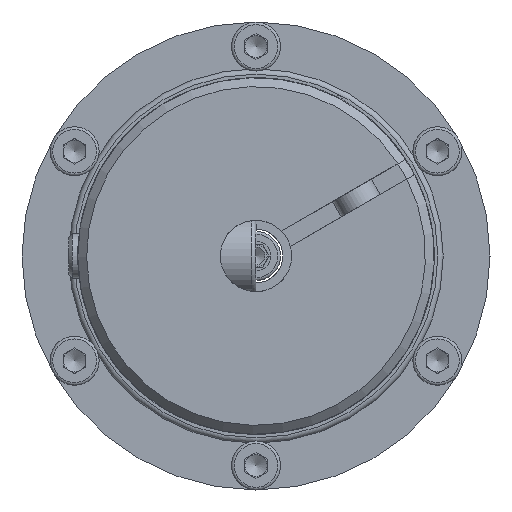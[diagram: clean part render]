
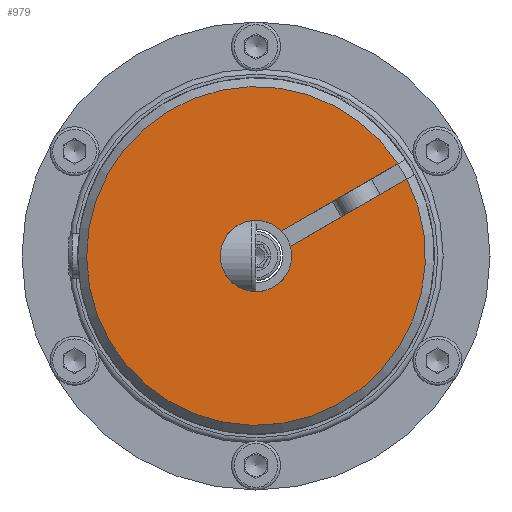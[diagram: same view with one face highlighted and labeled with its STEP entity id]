
A CAD part, left-side view. The second image highlights one B-rep face of the part: STEP entity #979.
In plain terms, the highlighted planar face has unit normal (-1, 0, 0).
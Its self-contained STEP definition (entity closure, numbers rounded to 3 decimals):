
#979 = ADVANCED_FACE( '', ( #1801 ), #1802, .F. );
#1801 = FACE_OUTER_BOUND( '', #3023, .T. );
#1802 = PLANE( '', #3024 );
#3023 = EDGE_LOOP( '', ( #5270, #5271, #5272, #5273 ) );
#3024 = AXIS2_PLACEMENT_3D( '', #5274, #5275, #5276 );
#5270 = ORIENTED_EDGE( '', *, *, #8015, .F. );
#5271 = ORIENTED_EDGE( '', *, *, #8014, .F. );
#5272 = ORIENTED_EDGE( '', *, *, #8010, .F. );
#5273 = ORIENTED_EDGE( '', *, *, #8016, .T. );
#5274 = CARTESIAN_POINT( '', ( -25., 0., 19. ) );
#5275 = DIRECTION( '', ( 1., 0., 0. ) );
#5276 = DIRECTION( '', ( 0., 0., -1. ) );
#8010 = EDGE_CURVE( '', #9506, #9502, #9508, .T. );
#8014 = EDGE_CURVE( '', #9502, #9512, #9515, .T. );
#8015 = EDGE_CURVE( '', #9512, #9516, #9517, .T. );
#8016 = EDGE_CURVE( '', #9506, #9516, #9518, .T. );
#9502 = VERTEX_POINT( '', #13098 );
#9506 = VERTEX_POINT( '', #13104 );
#9508 = LINE( '', #13109, #13110 );
#9512 = VERTEX_POINT( '', #13114 );
#9515 = CIRCLE( '', #13118, 4. );
#9516 = VERTEX_POINT( '', #13119 );
#9517 = LINE( '', #13120, #13121 );
#9518 = CIRCLE( '', #13122, 19. );
#13098 = CARTESIAN_POINT( '', ( -25., 3.873, -1. ) );
#13104 = CARTESIAN_POINT( '', ( -25., 18.974, -1. ) );
#13109 = CARTESIAN_POINT( '', ( -25., 0., -1. ) );
#13110 = VECTOR( '', #15568, 1000. );
#13114 = CARTESIAN_POINT( '', ( -25., 3.873, 1. ) );
#13118 = AXIS2_PLACEMENT_3D( '', #15576, #15577, #15578 );
#13119 = CARTESIAN_POINT( '', ( -25., 18.974, 1. ) );
#13120 = CARTESIAN_POINT( '', ( -25., 0., 1. ) );
#13121 = VECTOR( '', #15579, 1000. );
#13122 = AXIS2_PLACEMENT_3D( '', #15580, #15581, #15582 );
#15568 = DIRECTION( '', ( 0., -1., 0. ) );
#15576 = CARTESIAN_POINT( '', ( -25., 0., 0. ) );
#15577 = DIRECTION( '', ( -1., 0., 0. ) );
#15578 = DIRECTION( '', ( 0., 0., 1. ) );
#15579 = DIRECTION( '', ( 0., 1., 0. ) );
#15580 = CARTESIAN_POINT( '', ( -25., 0., 0. ) );
#15581 = DIRECTION( '', ( -1., 0., 0. ) );
#15582 = DIRECTION( '', ( 0., 0., 1. ) );
